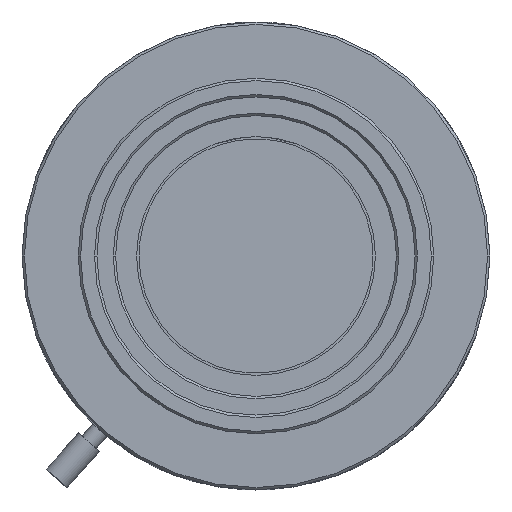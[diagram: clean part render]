
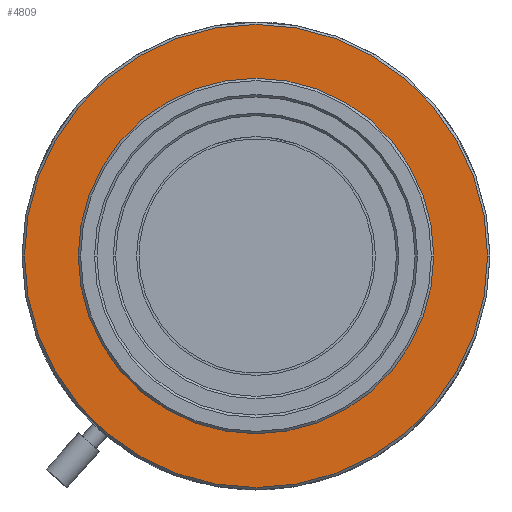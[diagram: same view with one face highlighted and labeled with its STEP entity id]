
A CAD part, left-side view. The second image highlights one B-rep face of the part: STEP entity #4809.
In plain terms, the highlighted planar face has unit normal (-1, 0, 0).
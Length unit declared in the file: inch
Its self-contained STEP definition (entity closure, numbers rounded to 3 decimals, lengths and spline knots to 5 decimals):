
#202 = DIRECTION ( 'NONE',  ( -1., 0., 0. ) ) ;
#338 = CIRCLE ( 'NONE', #8720, 0.97425 ) ;
#467 = DIRECTION ( 'NONE',  ( 1., 0., 0. ) ) ;
#763 = VERTEX_POINT ( 'NONE', #885 ) ;
#885 = CARTESIAN_POINT ( 'NONE',  ( -2.52428, 0.97425, 0. ) ) ;
#979 = DIRECTION ( 'NONE',  ( 0., -1., 0. ) ) ;
#995 = VERTEX_POINT ( 'NONE', #7059 ) ;
#1128 = ORIENTED_EDGE ( 'NONE', *, *, #3335, .T. ) ;
#1147 = AXIS2_PLACEMENT_3D ( 'NONE', #2411, #8039, #4677 ) ;
#1529 = DIRECTION ( 'NONE',  ( -1., 0., 0. ) ) ;
#2169 = EDGE_LOOP ( 'NONE', ( #3658, #8834 ) ) ;
#2269 = DIRECTION ( 'NONE',  ( -1., 0., 0. ) ) ;
#2411 = CARTESIAN_POINT ( 'NONE',  ( -2.52428, 0., 0. ) ) ;
#2457 = PLANE ( 'NONE',  #8459 ) ;
#2529 = AXIS2_PLACEMENT_3D ( 'NONE', #4413, #202, #5833 ) ;
#2817 = CIRCLE ( 'NONE', #2529, 0.97425 ) ;
#2826 = EDGE_LOOP ( 'NONE', ( #6428, #1128 ) ) ;
#2957 = CARTESIAN_POINT ( 'NONE',  ( -2.52428, 0., 0. ) ) ;
#3335 = EDGE_CURVE ( 'NONE', #763, #995, #338, .T. ) ;
#3347 = EDGE_CURVE ( 'NONE', #8662, #3591, #8574, .T. ) ;
#3591 = VERTEX_POINT ( 'NONE', #8525 ) ;
#3658 = ORIENTED_EDGE ( 'NONE', *, *, #3347, .F. ) ;
#3696 = DIRECTION ( 'NONE',  ( 0., -1., 0. ) ) ;
#3839 = CARTESIAN_POINT ( 'NONE',  ( -2.52428, 0., 0. ) ) ;
#3859 = EDGE_CURVE ( 'NONE', #3591, #8662, #3948, .T. ) ;
#3948 = CIRCLE ( 'NONE', #1147, 0.70865 ) ;
#4413 = CARTESIAN_POINT ( 'NONE',  ( -2.52428, 0., 0. ) ) ;
#4549 = FACE_OUTER_BOUND ( 'NONE', #2826, .T. ) ;
#4677 = DIRECTION ( 'NONE',  ( 0., 1., 0. ) ) ;
#4809 = ADVANCED_FACE ( 'NONE', ( #6800, #4549 ), #2457, .F. ) ;
#5101 = DIRECTION ( 'NONE',  ( 0., 1., 0. ) ) ;
#5148 = CARTESIAN_POINT ( 'NONE',  ( -2.52428, 0., 0. ) ) ;
#5833 = DIRECTION ( 'NONE',  ( 0., -1., 0. ) ) ;
#6258 = CARTESIAN_POINT ( 'NONE',  ( -2.52428, 0.70865, 0. ) ) ;
#6428 = ORIENTED_EDGE ( 'NONE', *, *, #8755, .T. ) ;
#6800 = FACE_BOUND ( 'NONE', #2169, .T. ) ;
#6970 = AXIS2_PLACEMENT_3D ( 'NONE', #2957, #2269, #5101 ) ;
#7059 = CARTESIAN_POINT ( 'NONE',  ( -2.52428, -0.97425, 0. ) ) ;
#8039 = DIRECTION ( 'NONE',  ( -1., 0., 0. ) ) ;
#8459 = AXIS2_PLACEMENT_3D ( 'NONE', #3839, #467, #979 ) ;
#8525 = CARTESIAN_POINT ( 'NONE',  ( -2.52428, -0.70865, 0. ) ) ;
#8574 = CIRCLE ( 'NONE', #6970, 0.70865 ) ;
#8662 = VERTEX_POINT ( 'NONE', #6258 ) ;
#8720 = AXIS2_PLACEMENT_3D ( 'NONE', #5148, #1529, #3696 ) ;
#8755 = EDGE_CURVE ( 'NONE', #995, #763, #2817, .T. ) ;
#8834 = ORIENTED_EDGE ( 'NONE', *, *, #3859, .F. ) ;
